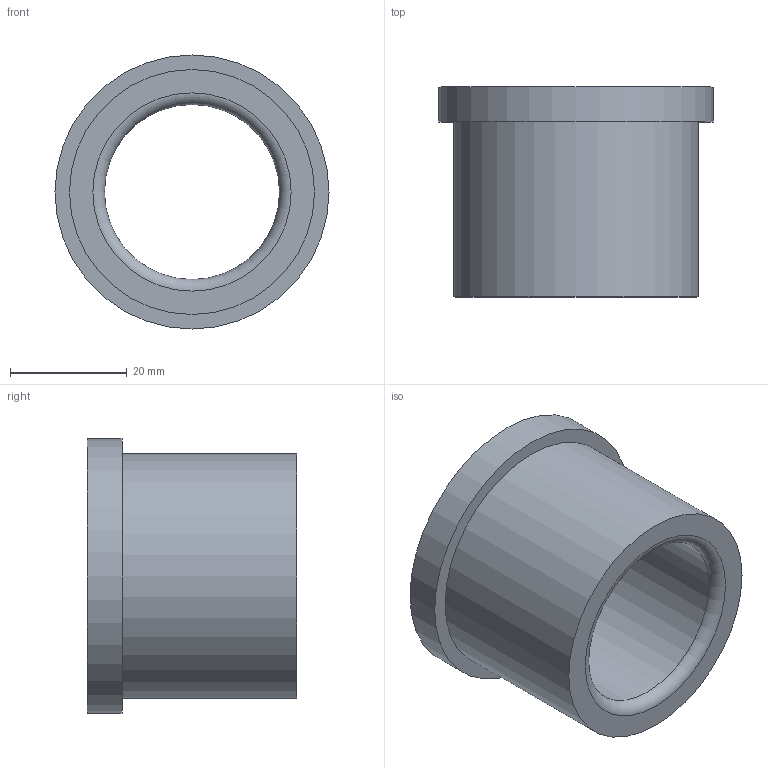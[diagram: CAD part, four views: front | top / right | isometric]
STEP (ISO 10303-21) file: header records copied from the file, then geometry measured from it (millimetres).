
FILE_DESCRIPTION(/* description */ ('STEP AP214'),/* implementation_level */ '2;1');
FILE_NAME(/* name */ '03_12_17940',/* time_stamp */ '2023-06-15T11:35:37+02:00',/* author */ ('License CC BY-ND 4.0'),/* organization */ ('CADENAS'),/* preprocessor_version */ 'ST-DEVELOPER v19.3',/* originating_system */ 'PARTsolutions',/* authorisation */ ' ');
FILE_SCHEMA (('AUTOMOTIVE_DESIGN {1 0 10303 214 3 1 1}'));
Length unit declared in the file: millimetre
Products named in the file (1): VA_Bushing_17940
Bounding box: 47 x 36 x 47 mm (x, y, z)
Volume: 26152.2 mm3; surface area: 10147.1 mm2
Topology: 1 solids, 1 shells, 10 faces, 16 edges, 10 vertices
Faces by surface type: cylinder 4, plane 4, torus 2
Full cylindrical faces by diameter (mm): 30 x1, 30.6 x1, 42 x1, 47 x1
Entity records: 302 total; most frequent: DIRECTION 42, CARTESIAN_POINT 31, AXIS2_PLACEMENT_3D 21, ORIENTED_EDGE 20, EDGE_LOOP 20, FACE_BOUND 20, EDGE_CURVE 10, VERTEX_POINT 10
